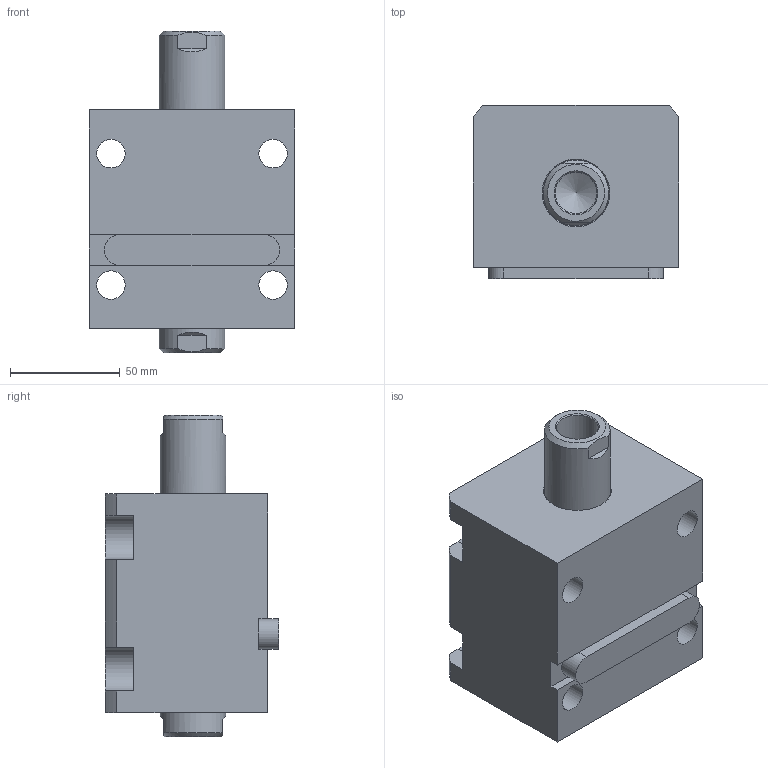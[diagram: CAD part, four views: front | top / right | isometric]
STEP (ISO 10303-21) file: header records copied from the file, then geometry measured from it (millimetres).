
FILE_DESCRIPTION(/* description */ (''),/* implementation_level */ '2;1');
FILE_NAME(/* name */ 'CHTB-LW50-25N.stp',/* time_stamp */ '2022-04-29T18:05:27+08:00',/* author */ (''),/* organization */ (''),/* preprocessor_version */ 'ST-DEVELOPER v16.7',/* originating_system */ 'SIEMENS PLM Software NX 12.0',/* authorisation */ '');
FILE_SCHEMA (('AUTOMOTIVE_DESIGN { 1 0 10303 214 3 1 1 1 }'));
Length unit declared in the file: millimetre
Products named in the file (1): CHTB-LW50-25N
Bounding box: 94 x 79 x 147 mm (x, y, z)
Volume: 624544.9 mm3; surface area: 111094.3 mm2
Topology: 3 solids, 3 shells, 452 faces, 1248 edges, 841 vertices
Faces by surface type: plane 295, extrusion 79, cylinder 44, cone 15, torus 11, bspline 8
Full cylindrical faces by diameter (mm): 4 x2, 5 x2, 10.7 x2, 13 x4, 19 x2, 30 x4, 39 x1, 44 x2, 46 x1, 50 x5, 59 x1
Entity records: 21212 total; most frequent: CARTESIAN_POINT 8077, ORIENTED_EDGE 2358, DIRECTION 1859, EDGE_CURVE 1179, VECTOR 909, LINE 830, VERTEX_POINT 829, EDGE_LOOP 560
